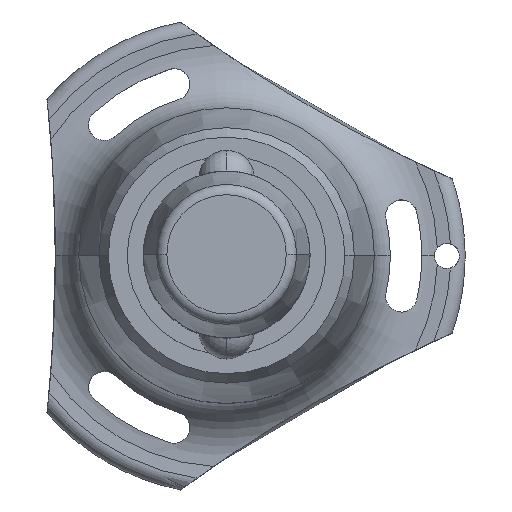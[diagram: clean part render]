
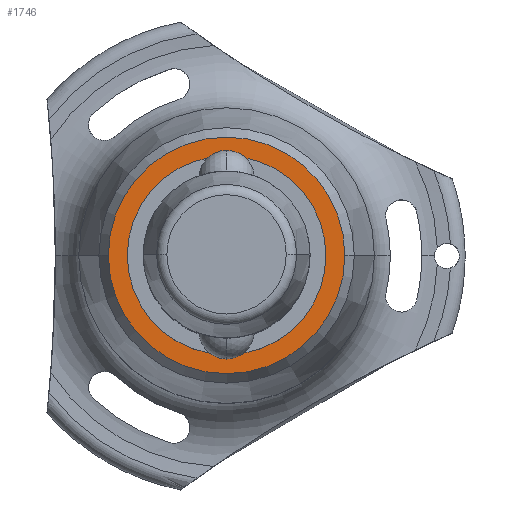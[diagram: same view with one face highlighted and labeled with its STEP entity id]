
A CAD part, top view. The second image highlights one B-rep face of the part: STEP entity #1746.
In plain terms, the highlighted planar face has unit normal (0, 0, 1).
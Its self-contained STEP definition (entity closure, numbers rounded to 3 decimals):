
#111 = AXIS2_PLACEMENT_3D ( 'NONE', #2084, #2762, #2781 ) ;
#253 = AXIS2_PLACEMENT_3D ( 'NONE', #651, #1995, #1349 ) ;
#325 = DIRECTION ( 'NONE',  ( 0., 0., -1. ) ) ;
#446 = CIRCLE ( 'NONE', #111, 11.889 ) ;
#455 = DIRECTION ( 'NONE',  ( 1., 0., 0. ) ) ;
#651 = CARTESIAN_POINT ( 'NONE',  ( 0., 0., -51.25 ) ) ;
#690 = PLANE ( 'NONE',  #1143 ) ;
#931 = CARTESIAN_POINT ( 'NONE',  ( 0., 11.889, -51.25 ) ) ;
#1009 = VERTEX_POINT ( 'NONE', #1195 ) ;
#1094 = EDGE_CURVE ( 'NONE', #2459, #1510, #2481, .T. ) ;
#1143 = AXIS2_PLACEMENT_3D ( 'NONE', #931, #2089, #455 ) ;
#1195 = CARTESIAN_POINT ( 'NONE',  ( 11.889, 0., -51.25 ) ) ;
#1324 = ORIENTED_EDGE ( 'NONE', *, *, #2630, .F. ) ;
#1349 = DIRECTION ( 'NONE',  ( -1., 0., 0. ) ) ;
#1405 = CARTESIAN_POINT ( 'NONE',  ( 0., 0., -51.25 ) ) ;
#1417 = EDGE_LOOP ( 'NONE', ( #2690, #1917 ) ) ;
#1510 = VERTEX_POINT ( 'NONE', #2161 ) ;
#1572 = FACE_OUTER_BOUND ( 'NONE', #1692, .T. ) ;
#1692 = EDGE_LOOP ( 'NONE', ( #1324, #1818 ) ) ;
#1706 = CARTESIAN_POINT ( 'NONE',  ( 14.154, 0., -51.25 ) ) ;
#1746 = ADVANCED_FACE ( 'NONE', ( #1864, #1572 ), #690, .T. ) ;
#1813 = AXIS2_PLACEMENT_3D ( 'NONE', #1962, #325, #2368 ) ;
#1818 = ORIENTED_EDGE ( 'NONE', *, *, #1094, .F. ) ;
#1840 = VERTEX_POINT ( 'NONE', #2136 ) ;
#1864 = FACE_BOUND ( 'NONE', #1417, .T. ) ;
#1867 = DIRECTION ( 'NONE',  ( 0., 0., -1. ) ) ;
#1917 = ORIENTED_EDGE ( 'NONE', *, *, #2360, .T. ) ;
#1962 = CARTESIAN_POINT ( 'NONE',  ( 0., 0., -51.25 ) ) ;
#1963 = AXIS2_PLACEMENT_3D ( 'NONE', #1405, #1867, #2338 ) ;
#1995 = DIRECTION ( 'NONE',  ( 0., 0., -1. ) ) ;
#2084 = CARTESIAN_POINT ( 'NONE',  ( 0., 0., -51.25 ) ) ;
#2089 = DIRECTION ( 'NONE',  ( 0., 0., 1. ) ) ;
#2136 = CARTESIAN_POINT ( 'NONE',  ( -11.889, 0., -51.25 ) ) ;
#2161 = CARTESIAN_POINT ( 'NONE',  ( -14.154, 0., -51.25 ) ) ;
#2255 = CIRCLE ( 'NONE', #1963, 11.889 ) ;
#2338 = DIRECTION ( 'NONE',  ( -1., 0., 0. ) ) ;
#2343 = CIRCLE ( 'NONE', #1813, 14.154 ) ;
#2360 = EDGE_CURVE ( 'NONE', #1009, #1840, #446, .T. ) ;
#2368 = DIRECTION ( 'NONE',  ( -1., 0., 0. ) ) ;
#2459 = VERTEX_POINT ( 'NONE', #1706 ) ;
#2481 = CIRCLE ( 'NONE', #253, 14.154 ) ;
#2630 = EDGE_CURVE ( 'NONE', #1510, #2459, #2343, .T. ) ;
#2690 = ORIENTED_EDGE ( 'NONE', *, *, #2797, .T. ) ;
#2762 = DIRECTION ( 'NONE',  ( 0., 0., -1. ) ) ;
#2781 = DIRECTION ( 'NONE',  ( -1., 0., 0. ) ) ;
#2797 = EDGE_CURVE ( 'NONE', #1840, #1009, #2255, .T. ) ;
